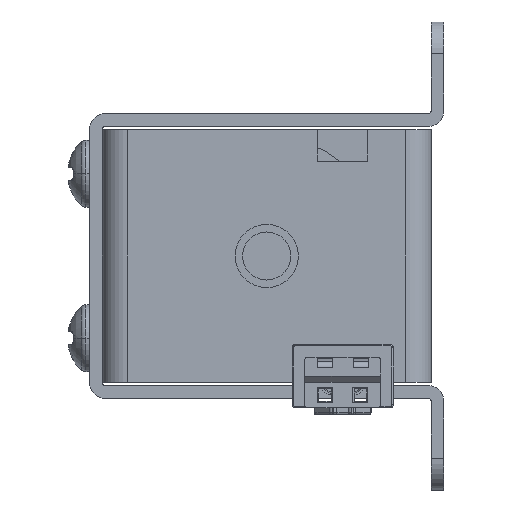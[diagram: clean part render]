
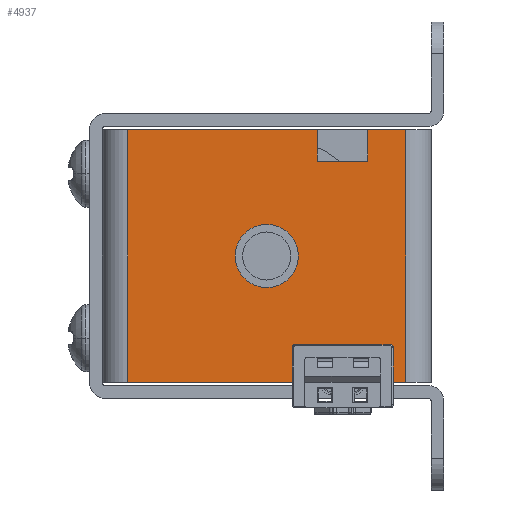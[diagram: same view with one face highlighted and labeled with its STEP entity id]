
A CAD part, left-side view. The second image highlights one B-rep face of the part: STEP entity #4937.
In plain terms, the highlighted planar face has unit normal (-1, 0, 0).
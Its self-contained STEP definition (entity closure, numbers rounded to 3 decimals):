
#37=DIRECTION('',(0.,-1.,0.));
#38=VECTOR('',#37,15.);
#39=CARTESIAN_POINT('',(-27.,11.,-10.));
#40=LINE('',#39,#38);
#86=DIRECTION('',(0.,-1.,0.));
#87=VECTOR('',#86,3.);
#88=CARTESIAN_POINT('',(-27.,-8.,-10.));
#89=LINE('',#88,#87);
#1167=DIRECTION('',(0.,-1.,0.));
#1168=VECTOR('',#1167,15.);
#1169=CARTESIAN_POINT('',(-27.,11.,10.));
#1170=LINE('',#1169,#1168);
#1176=DIRECTION('',(0.,-1.,0.));
#1177=VECTOR('',#1176,3.);
#1178=CARTESIAN_POINT('',(-27.,-8.,10.));
#1179=LINE('',#1178,#1177);
#1242=CARTESIAN_POINT('',(-27.,0.,0.));
#1243=DIRECTION('',(-1.,0.,0.));
#1244=DIRECTION('',(0.,0.,1.));
#1245=AXIS2_PLACEMENT_3D('',#1242,#1243,#1244);
#1247=CARTESIAN_POINT('',(-27.,0.,0.));
#1248=DIRECTION('',(-1.,0.,0.));
#1249=DIRECTION('',(0.,0.,-1.));
#1250=AXIS2_PLACEMENT_3D('',#1247,#1248,#1249);
#1252=DIRECTION('',(0.,0.,-1.));
#1253=VECTOR('',#1252,20.);
#1254=CARTESIAN_POINT('',(-27.,11.,10.));
#1255=LINE('',#1254,#1253);
#1256=DIRECTION('',(0.,0.,-1.));
#1257=VECTOR('',#1256,2.5);
#1258=CARTESIAN_POINT('',(-27.,-4.,10.));
#1259=LINE('',#1258,#1257);
#1260=DIRECTION('',(0.,-1.,0.));
#1261=VECTOR('',#1260,4.);
#1262=CARTESIAN_POINT('',(-27.,-4.,7.5));
#1263=LINE('',#1262,#1261);
#1264=DIRECTION('',(0.,0.,-1.));
#1265=VECTOR('',#1264,2.5);
#1266=CARTESIAN_POINT('',(-27.,-8.,10.));
#1267=LINE('',#1266,#1265);
#1268=DIRECTION('',(0.,0.,-1.));
#1269=VECTOR('',#1268,20.);
#1270=CARTESIAN_POINT('',(-27.,-11.,10.));
#1271=LINE('',#1270,#1269);
#1272=DIRECTION('',(0.,0.,1.));
#1273=VECTOR('',#1272,2.5);
#1274=CARTESIAN_POINT('',(-27.,-8.,-10.));
#1275=LINE('',#1274,#1273);
#1276=DIRECTION('',(0.,1.,0.));
#1277=VECTOR('',#1276,4.);
#1278=CARTESIAN_POINT('',(-27.,-8.,-7.5));
#1279=LINE('',#1278,#1277);
#1280=DIRECTION('',(0.,0.,1.));
#1281=VECTOR('',#1280,2.5);
#1282=CARTESIAN_POINT('',(-27.,-4.,-10.));
#1283=LINE('',#1282,#1281);
#2704=CARTESIAN_POINT('',(-27.,-8.,-10.));
#2706=VERTEX_POINT('',#2704);
#2708=CARTESIAN_POINT('',(-27.,-4.,-10.));
#2710=VERTEX_POINT('',#2708);
#2712=CARTESIAN_POINT('',(-27.,-4.,10.));
#2714=VERTEX_POINT('',#2712);
#2716=CARTESIAN_POINT('',(-27.,-8.,10.));
#2718=VERTEX_POINT('',#2716);
#2720=CARTESIAN_POINT('',(-27.,-8.,-7.5));
#2721=VERTEX_POINT('',#2720);
#2722=CARTESIAN_POINT('',(-27.,-4.,-7.5));
#2723=VERTEX_POINT('',#2722);
#2724=CARTESIAN_POINT('',(-27.,-4.,7.5));
#2725=VERTEX_POINT('',#2724);
#2726=CARTESIAN_POINT('',(-27.,-8.,7.5));
#2727=VERTEX_POINT('',#2726);
#2736=CARTESIAN_POINT('',(-27.,0.,2.5));
#2738=VERTEX_POINT('',#2736);
#2740=CARTESIAN_POINT('',(-27.,0.,-2.5));
#2742=VERTEX_POINT('',#2740);
#2952=CARTESIAN_POINT('',(-27.,11.,-10.));
#2954=VERTEX_POINT('',#2952);
#2958=CARTESIAN_POINT('',(-27.,11.,10.));
#2959=VERTEX_POINT('',#2958);
#2961=CARTESIAN_POINT('',(-27.,-11.,-10.));
#2963=VERTEX_POINT('',#2961);
#2964=CARTESIAN_POINT('',(-27.,-11.,10.));
#2965=VERTEX_POINT('',#2964);
#4907=CARTESIAN_POINT('',(-27.,13.,-10.));
#4908=DIRECTION('',(-1.,0.,0.));
#4909=DIRECTION('',(0.,-1.,0.));
#4910=AXIS2_PLACEMENT_3D('',#4907,#4908,#4909);
#4911=PLANE('',#4910);
#4912=ORIENTED_EDGE('',*,*,#3068,.F.);
#4913=ORIENTED_EDGE('',*,*,#4788,.T.);
#4915=ORIENTED_EDGE('',*,*,#4914,.T.);
#4917=ORIENTED_EDGE('',*,*,#4916,.T.);
#4919=ORIENTED_EDGE('',*,*,#4918,.F.);
#4920=ORIENTED_EDGE('',*,*,#4807,.T.);
#4922=ORIENTED_EDGE('',*,*,#4921,.T.);
#4923=ORIENTED_EDGE('',*,*,#3046,.F.);
#4924=ORIENTED_EDGE('',*,*,#4874,.T.);
#4925=ORIENTED_EDGE('',*,*,#4891,.T.);
#4927=ORIENTED_EDGE('',*,*,#4926,.F.);
#4928=ORIENTED_EDGE('',*,*,#3007,.F.);
#4929=EDGE_LOOP('',(#4912,#4913,#4915,#4917,#4919,#4920,#4922,#4923,#4924,#4925,
#4927,#4928));
#4930=FACE_OUTER_BOUND('',#4929,.F.);
#4932=ORIENTED_EDGE('',*,*,#4931,.T.);
#4934=ORIENTED_EDGE('',*,*,#4933,.T.);
#4935=EDGE_LOOP('',(#4932,#4934));
#4936=FACE_BOUND('',#4935,.F.);
#4937=ADVANCED_FACE('',(#4930,#4936),#4911,.T.);
#1246=CIRCLE('',#1245,2.5);
#1251=CIRCLE('',#1250,2.5);
#3007=EDGE_CURVE('',#2954,#2710,#40,.T.);
#3046=EDGE_CURVE('',#2706,#2963,#89,.T.);
#3068=EDGE_CURVE('',#2959,#2954,#1255,.T.);
#4788=EDGE_CURVE('',#2959,#2714,#1170,.T.);
#4807=EDGE_CURVE('',#2718,#2965,#1179,.T.);
#4874=EDGE_CURVE('',#2706,#2721,#1275,.T.);
#4891=EDGE_CURVE('',#2721,#2723,#1279,.T.);
#4914=EDGE_CURVE('',#2714,#2725,#1259,.T.);
#4916=EDGE_CURVE('',#2725,#2727,#1263,.T.);
#4918=EDGE_CURVE('',#2718,#2727,#1267,.T.);
#4921=EDGE_CURVE('',#2965,#2963,#1271,.T.);
#4926=EDGE_CURVE('',#2710,#2723,#1283,.T.);
#4931=EDGE_CURVE('',#2738,#2742,#1246,.T.);
#4933=EDGE_CURVE('',#2742,#2738,#1251,.T.);
